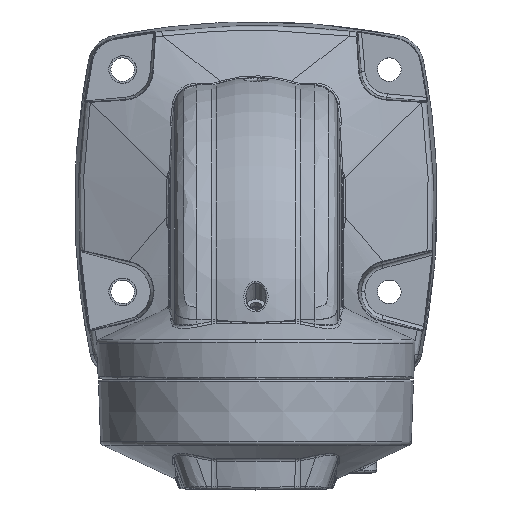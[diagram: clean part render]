
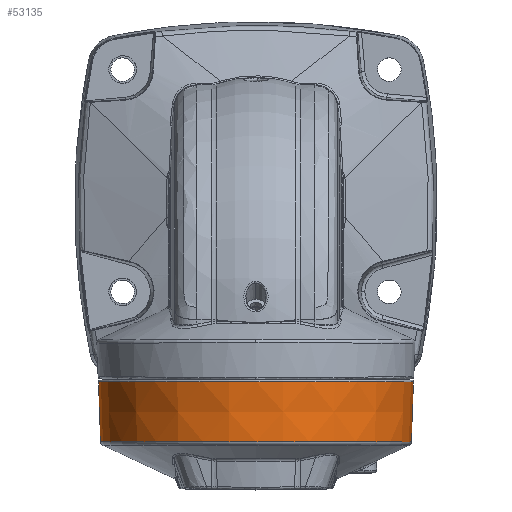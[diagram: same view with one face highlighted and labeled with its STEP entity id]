
A CAD part, top view. The second image highlights one B-rep face of the part: STEP entity #53135.
In plain terms, the highlighted conical face has half-angle 2 degrees and reference radius 59.5 mm.
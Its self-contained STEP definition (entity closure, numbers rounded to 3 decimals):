
#7693 = AXIS2_PLACEMENT_3D ( 'NONE', #64210, #14850, #78559 ) ;
#14850 = DIRECTION ( 'NONE',  ( 0., -1., 0. ) ) ;
#15762 = CARTESIAN_POINT ( 'NONE',  ( -93.927, 42.337, 263.787 ) ) ;
#16153 = EDGE_CURVE ( 'NONE', #39145, #77108, #82621, .T. ) ;
#19268 = DIRECTION ( 'NONE',  ( 1., 0., 0. ) ) ;
#21271 = CARTESIAN_POINT ( 'NONE',  ( 26.487, 42.337, 263.787 ) ) ;
#21346 = ORIENTED_EDGE ( 'NONE', *, *, #42253, .F. ) ;
#22366 = CIRCLE ( 'NONE', #69808, 59.408 ) ;
#24715 = FACE_OUTER_BOUND ( 'NONE', #65880, .T. ) ;
#28798 = ORIENTED_EDGE ( 'NONE', *, *, #41836, .T. ) ;
#29045 = CARTESIAN_POINT ( 'NONE',  ( -93.128, 19.459, 263.787 ) ) ;
#30693 = VECTOR ( 'NONE', #46379, 1000. ) ;
#32339 = CARTESIAN_POINT ( 'NONE',  ( 25.78, 22.083, 263.787 ) ) ;
#36261 = ORIENTED_EDGE ( 'NONE', *, *, #81537, .T. ) ;
#39145 = VERTEX_POINT ( 'NONE', #21271 ) ;
#41836 = EDGE_CURVE ( 'NONE', #64836, #39145, #67849, .T. ) ;
#42253 = EDGE_CURVE ( 'NONE', #51197, #77108, #43766, .T. ) ;
#43766 = LINE ( 'NONE', #85772, #48128 ) ;
#46379 = DIRECTION ( 'NONE',  ( 0.035, 0.999, 0. ) ) ;
#48128 = VECTOR ( 'NONE', #65268, 1000. ) ;
#49266 = DIRECTION ( 'NONE',  ( 1., 0., 0. ) ) ;
#51197 = VERTEX_POINT ( 'NONE', #29045 ) ;
#53083 = DIRECTION ( 'NONE',  ( 0., 1., 0. ) ) ;
#53135 = ADVANCED_FACE ( 'NONE', ( #24715 ), #83714, .T. ) ;
#55745 = CARTESIAN_POINT ( 'NONE',  ( -33.72, 19.459, 263.787 ) ) ;
#60425 = CARTESIAN_POINT ( 'NONE',  ( -33.72, 22.083, 263.787 ) ) ;
#64210 = CARTESIAN_POINT ( 'NONE',  ( -33.72, 42.337, 263.787 ) ) ;
#64836 = VERTEX_POINT ( 'NONE', #85073 ) ;
#65268 = DIRECTION ( 'NONE',  ( -0.035, 0.999, 0. ) ) ;
#65880 = EDGE_LOOP ( 'NONE', ( #21346, #36261, #28798, #72667 ) ) ;
#67849 = LINE ( 'NONE', #32339, #30693 ) ;
#69808 = AXIS2_PLACEMENT_3D ( 'NONE', #55745, #77429, #49266 ) ;
#71391 = AXIS2_PLACEMENT_3D ( 'NONE', #60425, #53083, #19268 ) ;
#72667 = ORIENTED_EDGE ( 'NONE', *, *, #16153, .T. ) ;
#77108 = VERTEX_POINT ( 'NONE', #15762 ) ;
#77429 = DIRECTION ( 'NONE',  ( 0., 1., 0. ) ) ;
#78559 = DIRECTION ( 'NONE',  ( 1., 0., 0. ) ) ;
#81537 = EDGE_CURVE ( 'NONE', #51197, #64836, #22366, .T. ) ;
#82621 = CIRCLE ( 'NONE', #7693, 60.207 ) ;
#83714 = CONICAL_SURFACE ( 'NONE', #71391, 59.5, 0.035 ) ;
#85073 = CARTESIAN_POINT ( 'NONE',  ( 25.688, 19.459, 263.787 ) ) ;
#85772 = CARTESIAN_POINT ( 'NONE',  ( -93.22, 22.083, 263.787 ) ) ;
